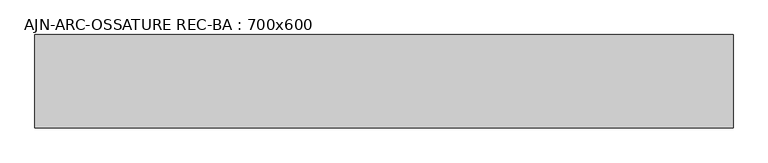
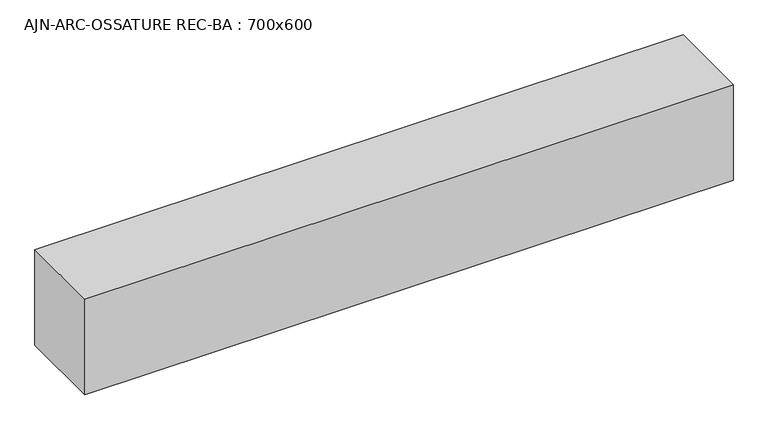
"""IFC4 building model written with IfcOpenShell, lengths in millimetres: beam geometry, AJN-ARC-OSSATURE REC-BA : 700x600."""

from ifc_helpers import new_model, si_unit, frame, origin, place, context, project, spatial, polyline, outline, extrude, source, transform, mapped, element, save


def ajn_arc_ossature_rec_ba_700x600_0388eb48(model_context):
    return source(origin(), model_context, "Body", "SweptSolid", [
        extrude(outline(polyline([(2250.0, 300.0), (2250.0, -300.0), (-2237.2999994, -300.0), (-2237.2999994, 300.0), (2250.0, 300.0)])), frame((0.0, 0.0, -350.0), z_axis=(0.0, 0.0, 1.0), x_axis=(1.0, 0.0, 0.0)), (0.0, 0.0, 1.0), 700.0),
    ])


if __name__ == "__main__":
    model = new_model("IFC4")
    model_context = context("Model", 3, world=origin())
    ifc_project = project(units=[si_unit("LENGTHUNIT", "METRE", prefix="MILLI")], contexts=[model_context])
    site = spatial("IfcSite", under=ifc_project)
    building = spatial("IfcBuilding", under=site)
    placement = place(None, origin())
    ajn_arc_ossature_rec_ba_700x600_shape = ajn_arc_ossature_rec_ba_700x600_0388eb48(model_context)
    element("IfcBeam", 1, ObjectType="AJN-ARC-OSSATURE REC-BA : 700x600", at=placement, inside=building, context=model_context, shape_type="MappedRepresentation", body=[
        mapped(ajn_arc_ossature_rec_ba_700x600_shape, transform((0.0, 0.0, 0.0), x_axis=(1.0, 0.0, 0.0), y_axis=(0.0, 1.0, 0.0), z_axis=(0.0, 0.0, 1.0))),
    ])
    save(model, "model.ifc")
